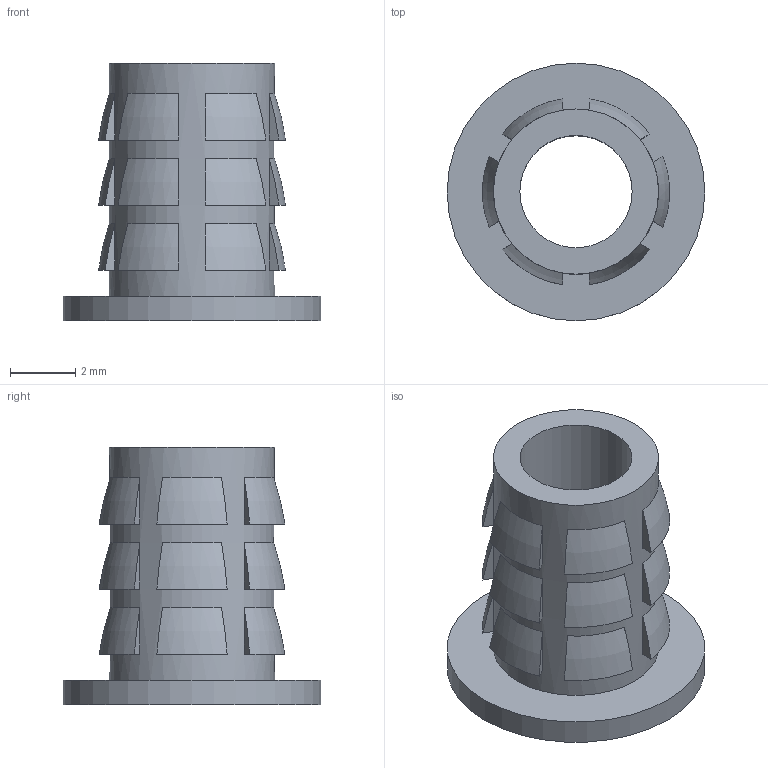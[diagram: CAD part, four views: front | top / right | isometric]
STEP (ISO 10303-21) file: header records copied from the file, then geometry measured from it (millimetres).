
FILE_DESCRIPTION (( 'STEP AP214' ), '1' );
FILE_NAME ('flanged insert 8-32.STEP', '2017-08-09T04:09:38', ( '微软用户' ), ( '微软中国' ), 'SwSTEP 2.0', 'SolidWorks 2015', '' );
FILE_SCHEMA (( 'AUTOMOTIVE_DESIGN' ));
Length unit declared in the file: millimetre
Products named in the file (1): flanged insert 8-32
Bounding box: 7.92 x 7.92 x 7.92 mm (x, y, z)
Volume: 114.7 mm3; surface area: 324.5 mm2
Topology: 1 solids, 1 shells, 79 faces, 182 edges, 121 vertices
Faces by surface type: plane 57, torus 18, cylinder 3, cone 1
Full cylindrical faces by diameter (mm): 3.454 x1, 5.08 x1, 7.925 x1
Entity records: 3140 total; most frequent: CARTESIAN_POINT 520, DIRECTION 354, ORIENTED_EDGE 338, EDGE_CURVE 169, AXIS2_PLACEMENT_3D 141, VERTEX_POINT 115, EDGE_LOOP 104, FACE_OUTER_BOUND 82
